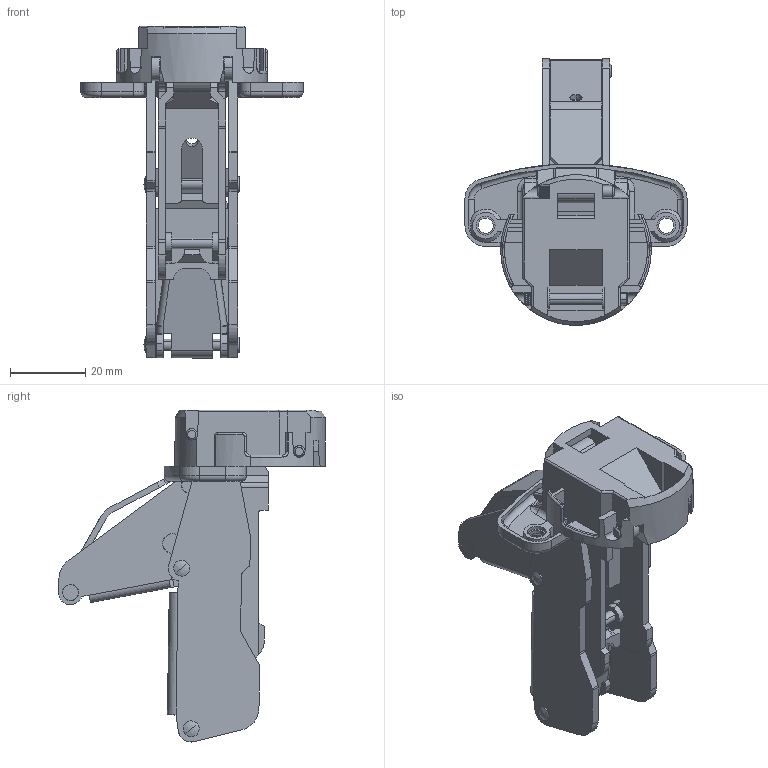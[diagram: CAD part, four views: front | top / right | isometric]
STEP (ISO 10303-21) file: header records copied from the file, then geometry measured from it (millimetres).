
FILE_DESCRIPTION (( 'STEP AP203' ), '1' );
FILE_NAME ('H160_34_23_0.STEP', '2013-05-30T10:22:57', ( '' ), ( '' ), 'SwSTEP 2.0', 'SolidWorks 2012', '' );
FILE_SCHEMA (( 'CONFIG_CONTROL_DESIGN' ));
Length unit declared in the file: millimetre
Products named in the file (8): H160_34_23_0; H160_34_23_000; H160_socket; H160_arm_SJ; H160_arm_SL_23180; H160_arm_GD; H160_arm_CT; H160_body_23
Assembly tree (7 placements, depth 3):
  H160_34_23_0
    H160_34_23_000
      H160_body_23
      H160_arm_CT
      H160_arm_GD
      H160_arm_SL_23180
      H160_arm_SJ
      H160_socket
Bounding box: 59 x 70.9 x 88.16 mm (x, y, z)
Volume: 25758.5 mm3; surface area: 32103.7 mm2
Topology: 6 solids, 8 shells, 1034 faces, 2905 edges, 1858 vertices
Faces by surface type: plane 557, cylinder 363, cone 46, torus 44, bspline 18, sphere 6
Entity records: 35126 total; most frequent: CARTESIAN_POINT 7324, ORIENTED_EDGE 5806, DIRECTION 5617, EDGE_CURVE 2903, AXIS2_PLACEMENT_3D 1911, VERTEX_POINT 1858, LINE 1795, VECTOR 1795
